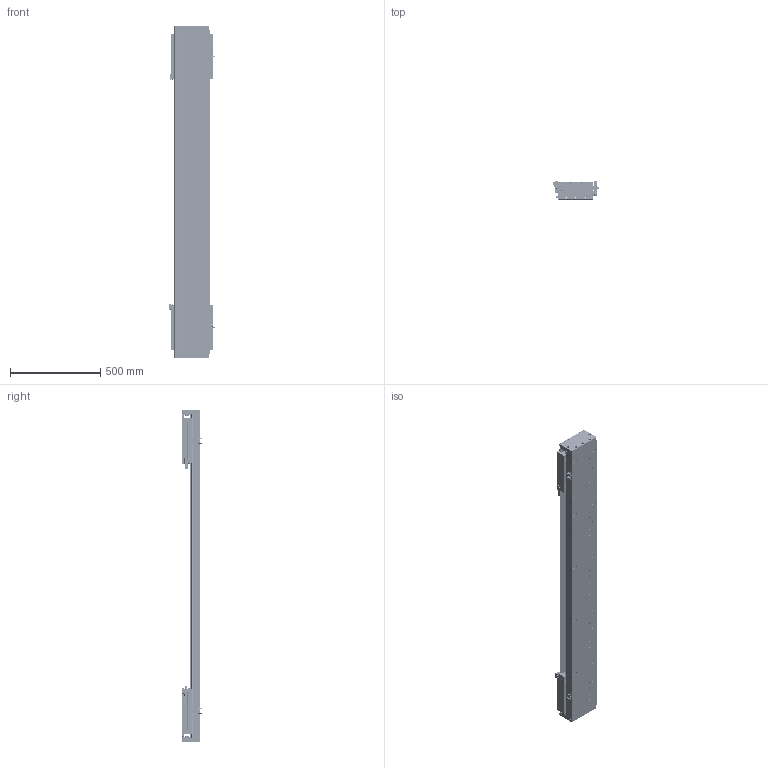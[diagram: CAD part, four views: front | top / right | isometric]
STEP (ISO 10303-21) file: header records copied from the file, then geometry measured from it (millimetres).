
FILE_DESCRIPTION (( 'STEP AP203' ), '1' );
FILE_NAME ('DA-C195-2-C3-T1220-C010-0.2 眻盄萇儂.STEP', '2025-08-14T11:04:30', ( '' ), ( '' ), 'SwSTEP 2.0', 'SolidWorks 2019', '' );
FILE_SCHEMA (( 'CONFIG_CONTROL_DESIGN' ));
Length unit declared in the file: millimetre
Products named in the file (19): DA-C195-2-C3-T1220-C010-0.2 眻盄萇儂; PM-T45ㄗ侂狟ㄘ; DA195詩湍嶺輸; LMT黍杅芛; IU-CU195-L 菁釱絳寢; CU195-C3賑輸-俋楷; DA195詩湍裔啣; DA195詩湍菜輸; DKW168-HXJ-ZJ-00 笢潔滅袉砎蝶; DA165-GYP-00 光电感应片(默认); 葩璃 DA95-GT-T-00; PM-Y65嫖萇羲壽郪璃; DA-C195-GD-DB-H-00 傷啣; MS200 棠掑喜S315-T240; DKW-KGZ-ZJ-00 中间光电开关支架; IU-CU195-L-00 菁釱(L1800); DA95-HXJ-00 遣喳砎蝶; DA195詩湍郪璃; DKW-GYP-ZJ-00 笢潔嫖萇覜茼え
Assembly tree (37 placements, depth 3):
  DA-C195-2-C3-T1220-C010-0.2 眻盄萇儂
    DA195詩湍郪璃
      DA195詩湍菜輸  x2
      DA195詩湍裔啣
      DA195詩湍嶺輸  x2
      DA95-HXJ-00 遣喳砎蝶  x8
      DA-C195-GD-DB-H-00 傷啣  x2
    IU-CU195-L 菁釱絳寢
      IU-CU195-L-00 菁釱(L1800)
      葩璃 DA95-GT-T-00  x4
    LMT黍杅芛  x2
    MS200 棠掑喜S315-T240
    PM-T45ㄗ侂狟ㄘ  x4
    DA165-GYP-00 光电感应片(默认)  x2
    PM-Y65嫖萇羲壽郪璃
    DKW168-HXJ-ZJ-00 笢潔滅袉砎蝶
    DKW-GYP-ZJ-00 笢潔嫖萇覜茼え
    DKW-KGZ-ZJ-00 中间光电开关支架
    CU195-C3賑輸-俋楷  x2
Bounding box: 258.2 x 115.45 x 1840 mm (x, y, z)
Volume: 13098259.4 mm3; surface area: 3664322.1 mm2
Topology: 154 solids, 218 shells, 6559 faces, 17151 edges, 10629 vertices
Faces by surface type: cylinder 2970, plane 2537, cone 884, torus 88, sphere 72, bspline 8
Entity records: 132457 total; most frequent: CARTESIAN_POINT 33097, ORIENTED_EDGE 20318, DIRECTION 20040, EDGE_CURVE 10159, AXIS2_PLACEMENT_3D 7345, VERTEX_POINT 6554, VECTOR 5350, LINE 5350
